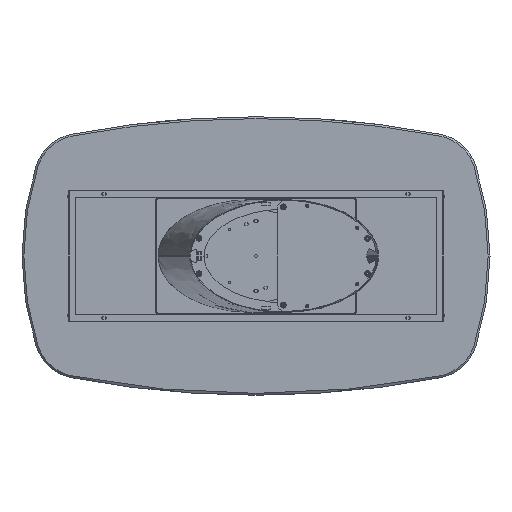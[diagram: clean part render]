
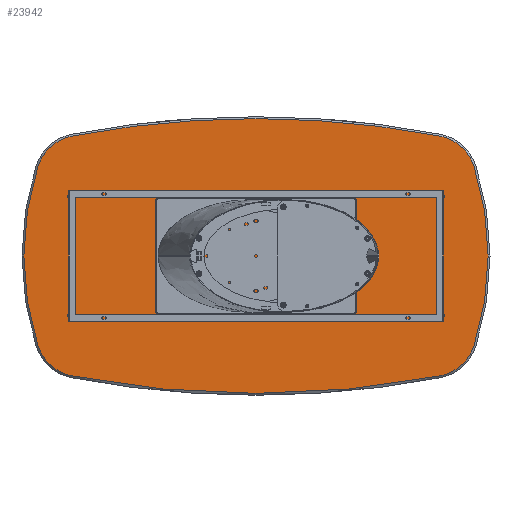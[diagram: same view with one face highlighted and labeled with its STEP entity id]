
A CAD part, front view. The second image highlights one B-rep face of the part: STEP entity #23942.
In plain terms, the highlighted planar face has unit normal (0, -1, 0).
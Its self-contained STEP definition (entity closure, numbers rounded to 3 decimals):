
#168 = DIRECTION ( 'NONE',  ( 0., 0., 1. ) ) ;
#927 = CARTESIAN_POINT ( 'NONE',  ( 749.201, 0., 324.211 ) ) ;
#1138 = ORIENTED_EDGE ( 'NONE', *, *, #21319, .T. ) ;
#1206 = DIRECTION ( 'NONE',  ( 0., -1., 0. ) ) ;
#1320 = DIRECTION ( 'NONE',  ( 0., -1., 0. ) ) ;
#1978 = CARTESIAN_POINT ( 'NONE',  ( -749.201, 0., -324.211 ) ) ;
#2048 = ORIENTED_EDGE ( 'NONE', *, *, #22199, .T. ) ;
#2694 = CARTESIAN_POINT ( 'NONE',  ( 260., 0., 0. ) ) ;
#2818 = DIRECTION ( 'NONE',  ( 0., 0., 1. ) ) ;
#3011 = FACE_OUTER_BOUND ( 'NONE', #3624, .T. ) ;
#3016 = CIRCLE ( 'NONE', #14471, 192. ) ;
#3053 = EDGE_CURVE ( 'NONE', #17278, #4168, #20585, .T. ) ;
#3300 = AXIS2_PLACEMENT_3D ( 'NONE', #22399, #23915, #7527 ) ;
#3467 = AXIS2_PLACEMENT_3D ( 'NONE', #927, #13317, #15800 ) ;
#3598 = EDGE_CURVE ( 'NONE', #4168, #3897, #8300, .T. ) ;
#3624 = EDGE_LOOP ( 'NONE', ( #9737, #26860, #20329, #24562, #19981, #2048, #14735, #1138, #16493 ) ) ;
#3897 = VERTEX_POINT ( 'NONE', #16604 ) ;
#4046 = CARTESIAN_POINT ( 'NONE',  ( -785.163, 0., 512.813 ) ) ;
#4164 = CIRCLE ( 'NONE', #20896, 192. ) ;
#4168 = VERTEX_POINT ( 'NONE', #15895 ) ;
#4813 = CARTESIAN_POINT ( 'NONE',  ( -260., 0., 0. ) ) ;
#4965 = EDGE_CURVE ( 'NONE', #5714, #16234, #25762, .T. ) ;
#5714 = VERTEX_POINT ( 'NONE', #18228 ) ;
#5997 = CARTESIAN_POINT ( 'NONE',  ( -785.163, 0., -512.813 ) ) ;
#6505 = CARTESIAN_POINT ( 'NONE',  ( 932., 0., -382.936 ) ) ;
#6929 = AXIS2_PLACEMENT_3D ( 'NONE', #21614, #8931, #26021 ) ;
#7019 = VERTEX_POINT ( 'NONE', #19615 ) ;
#7406 = EDGE_CURVE ( 'NONE', #20318, #17278, #3016, .T. ) ;
#7527 = DIRECTION ( 'NONE',  ( 0., 0., 1. ) ) ;
#8300 = CIRCLE ( 'NONE', #3467, 192. ) ;
#8518 = DIRECTION ( 'NONE',  ( 0., 0., 1. ) ) ;
#8823 = AXIS2_PLACEMENT_3D ( 'NONE', #9318, #1320, #9727 ) ;
#8931 = DIRECTION ( 'NONE',  ( 0., 1., 0. ) ) ;
#9318 = CARTESIAN_POINT ( 'NONE',  ( 0., 0., 3605. ) ) ;
#9331 = DIRECTION ( 'NONE',  ( 0., 0., 1. ) ) ;
#9606 = AXIS2_PLACEMENT_3D ( 'NONE', #4813, #25611, #8518 ) ;
#9727 = DIRECTION ( 'NONE',  ( 0., 0., 1. ) ) ;
#9737 = ORIENTED_EDGE ( 'NONE', *, *, #13513, .T. ) ;
#10814 = CIRCLE ( 'NONE', #20041, 4192. ) ;
#11424 = PLANE ( 'NONE',  #6929 ) ;
#12866 = DIRECTION ( 'NONE',  ( 0., -1., 0. ) ) ;
#13317 = DIRECTION ( 'NONE',  ( 0., -1., 0. ) ) ;
#13513 = EDGE_CURVE ( 'NONE', #24414, #24913, #4164, .T. ) ;
#14471 = AXIS2_PLACEMENT_3D ( 'NONE', #20424, #14521, #22917 ) ;
#14521 = DIRECTION ( 'NONE',  ( 0., -1., 0. ) ) ;
#14735 = ORIENTED_EDGE ( 'NONE', *, *, #4965, .T. ) ;
#15086 = DIRECTION ( 'NONE',  ( 0., -1., 0. ) ) ;
#15800 = DIRECTION ( 'NONE',  ( 0., 0., 1. ) ) ;
#15895 = CARTESIAN_POINT ( 'NONE',  ( 932., 0., 382.936 ) ) ;
#15925 = EDGE_CURVE ( 'NONE', #24913, #20318, #20704, .T. ) ;
#16234 = VERTEX_POINT ( 'NONE', #4046 ) ;
#16493 = ORIENTED_EDGE ( 'NONE', *, *, #21020, .T. ) ;
#16604 = CARTESIAN_POINT ( 'NONE',  ( 785.163, 0., 512.813 ) ) ;
#16955 = CIRCLE ( 'NONE', #3300, 192. ) ;
#17278 = VERTEX_POINT ( 'NONE', #6505 ) ;
#17858 = CARTESIAN_POINT ( 'NONE',  ( -932., 0., -382.936 ) ) ;
#18198 = CARTESIAN_POINT ( 'NONE',  ( 785.163, 0., -512.813 ) ) ;
#18228 = CARTESIAN_POINT ( 'NONE',  ( 0., 0., 587. ) ) ;
#18899 = CARTESIAN_POINT ( 'NONE',  ( 0., 0., -3605. ) ) ;
#19615 = CARTESIAN_POINT ( 'NONE',  ( -932., 0., 382.936 ) ) ;
#19981 = ORIENTED_EDGE ( 'NONE', *, *, #3598, .T. ) ;
#20041 = AXIS2_PLACEMENT_3D ( 'NONE', #18899, #25373, #168 ) ;
#20318 = VERTEX_POINT ( 'NONE', #18198 ) ;
#20329 = ORIENTED_EDGE ( 'NONE', *, *, #7406, .T. ) ;
#20424 = CARTESIAN_POINT ( 'NONE',  ( 749.201, 0., -324.211 ) ) ;
#20585 = CIRCLE ( 'NONE', #9606, 1252. ) ;
#20704 = CIRCLE ( 'NONE', #8823, 4192. ) ;
#20896 = AXIS2_PLACEMENT_3D ( 'NONE', #1978, #12866, #23058 ) ;
#21020 = EDGE_CURVE ( 'NONE', #7019, #24414, #24427, .T. ) ;
#21319 = EDGE_CURVE ( 'NONE', #16234, #7019, #16955, .T. ) ;
#21614 = CARTESIAN_POINT ( 'NONE',  ( -130., 0., 1802.5 ) ) ;
#21787 = AXIS2_PLACEMENT_3D ( 'NONE', #21868, #1206, #9331 ) ;
#21868 = CARTESIAN_POINT ( 'NONE',  ( 0., 0., -3605. ) ) ;
#22199 = EDGE_CURVE ( 'NONE', #3897, #5714, #10814, .T. ) ;
#22399 = CARTESIAN_POINT ( 'NONE',  ( -749.201, 0., 324.211 ) ) ;
#22917 = DIRECTION ( 'NONE',  ( 0., 0., 1. ) ) ;
#23058 = DIRECTION ( 'NONE',  ( 0., 0., 1. ) ) ;
#23915 = DIRECTION ( 'NONE',  ( 0., -1., 0. ) ) ;
#23942 = ADVANCED_FACE ( 'NONE', ( #3011 ), #11424, .F. ) ;
#24414 = VERTEX_POINT ( 'NONE', #17858 ) ;
#24427 = CIRCLE ( 'NONE', #24846, 1252. ) ;
#24562 = ORIENTED_EDGE ( 'NONE', *, *, #3053, .T. ) ;
#24846 = AXIS2_PLACEMENT_3D ( 'NONE', #2694, #15086, #2818 ) ;
#24913 = VERTEX_POINT ( 'NONE', #5997 ) ;
#25373 = DIRECTION ( 'NONE',  ( 0., -1., 0. ) ) ;
#25611 = DIRECTION ( 'NONE',  ( 0., -1., 0. ) ) ;
#25762 = CIRCLE ( 'NONE', #21787, 4192. ) ;
#26021 = DIRECTION ( 'NONE',  ( 0., 0., 1. ) ) ;
#26860 = ORIENTED_EDGE ( 'NONE', *, *, #15925, .T. ) ;
